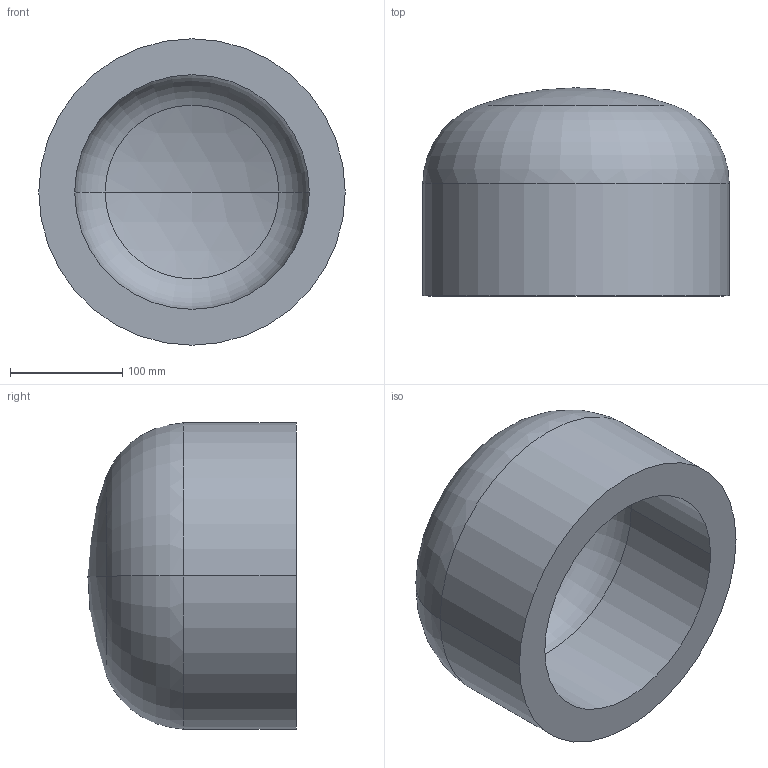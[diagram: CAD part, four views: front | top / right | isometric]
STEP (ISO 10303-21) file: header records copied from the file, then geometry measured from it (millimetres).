
FILE_DESCRIPTION (( 'STEP AP203' ), '1' );
FILE_NAME ('DIN 28013 Korbbogenform_-_Boden DIN 28013 - 273 x 100 - I - s=32.step', '2016-07-01T07:43:54', ( '' ), ( '' ), 'SwSTEP 2.0', 'SolidWorks 2013', '' );
FILE_SCHEMA (( 'CONFIG_CONTROL_DESIGN' ));
Length unit declared in the file: millimetre
Products named in the file (1): DIN 28013 Korbbogenform_-_Boden DIN 28013 - 273 x 100 - I - s=32
Bounding box: 273 x 185.47 x 273 mm (x, y, z)
Volume: 4670072.1 mm3; surface area: 318252.1 mm2
Topology: 1 solids, 1 shells, 13 faces, 24 edges, 14 vertices
Faces by surface type: torus 4, cylinder 4, sphere 4, plane 1
Entity records: 407 total; most frequent: DIRECTION 72, CARTESIAN_POINT 52, ORIENTED_EDGE 48, AXIS2_PLACEMENT_3D 34, EDGE_CURVE 24, CIRCLE 20, VERTEX_POINT 14, EDGE_LOOP 14
